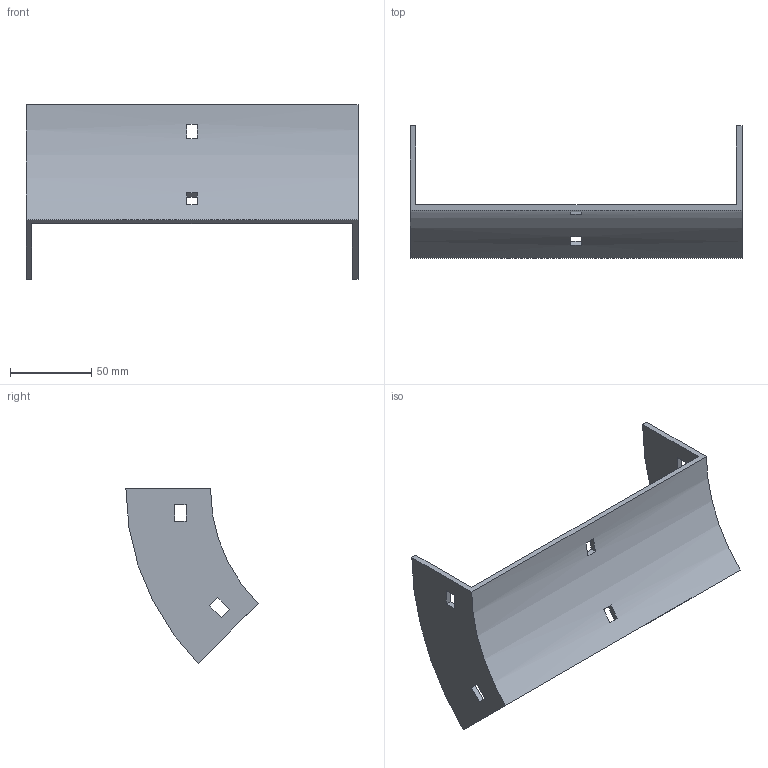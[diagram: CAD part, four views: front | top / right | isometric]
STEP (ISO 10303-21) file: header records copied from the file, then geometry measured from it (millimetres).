
FILE_DESCRIPTION (( 'STEP AP214' ), '1' );
FILE_NAME ('34B1B200.step', '2025-02-21T09:28:22', ( '' ), ( '' ), 'SwSTEP 2.0', 'SolidWorks 2023', '' );
FILE_SCHEMA (( 'AUTOMOTIVE_DESIGN' ));
Length unit declared in the file: millimetre
Products named in the file (1): 34B1B200
Bounding box: 204 x 81.29 x 107.48 mm (x, y, z)
Volume: 89727.2 mm3; surface area: 54901.8 mm2
Topology: 1 solids, 1 shells, 34 faces, 96 edges, 64 vertices
Faces by surface type: plane 30, cylinder 4
Entity records: 1143 total; most frequent: CARTESIAN_POINT 195, ORIENTED_EDGE 192, DIRECTION 182, EDGE_CURVE 96, LINE 80, VECTOR 80, VERTEX_POINT 64, AXIS2_PLACEMENT_3D 51
